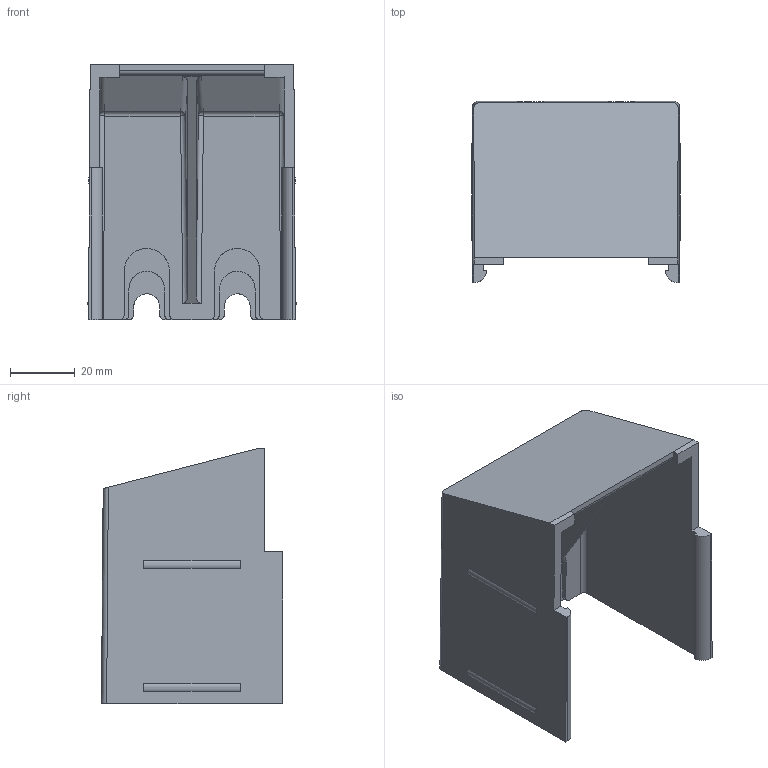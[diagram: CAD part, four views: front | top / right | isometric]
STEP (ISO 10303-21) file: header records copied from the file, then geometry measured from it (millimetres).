
FILE_DESCRIPTION (( 'STEP AP203' ), '1' );
FILE_NAME ('Êðûøêà èçîëèðóþùàÿ 2õÏ-ÂÀ21 - 1øò.STEP', '2022-07-01T13:31:43', ( '' ), ( '' ), 'SwSTEP 2.0', 'SolidWorks 2018', '' );
FILE_SCHEMA (( 'CONFIG_CONTROL_DESIGN' ));
Length unit declared in the file: millimetre
Products named in the file (1): Êðûøêà èçîëèðóþùàÿ 2õÏ-ÂÀ21 - 1øò
Bounding box: 64.54 x 56 x 79.03 mm (x, y, z)
Volume: 46291.1 mm3; surface area: 31964.5 mm2
Topology: 1 solids, 1 shells, 103 faces, 277 edges, 180 vertices
Faces by surface type: plane 56, cylinder 43, sphere 4
Entity records: 3242 total; most frequent: CARTESIAN_POINT 747, ORIENTED_EDGE 554, DIRECTION 449, EDGE_CURVE 277, VECTOR 189, LINE 189, VERTEX_POINT 180, AXIS2_PLACEMENT_3D 130
